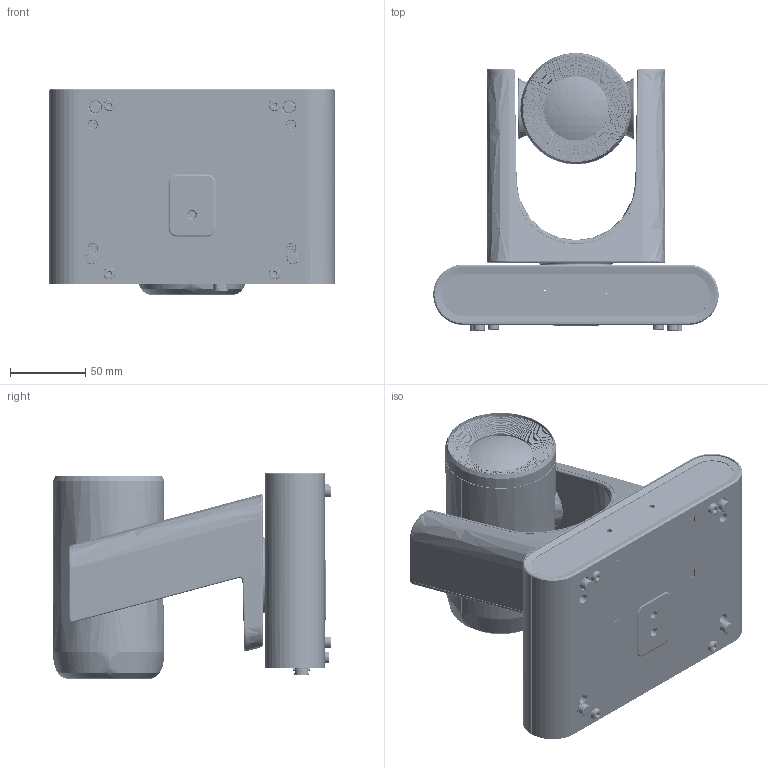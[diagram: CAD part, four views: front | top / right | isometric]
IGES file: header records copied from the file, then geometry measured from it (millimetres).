
Start section: SolidWorks IGES file using analytic representation for surfaces
Global section: file name: D:\00-assy-vc-B50U.IGS; native system: SolidWorks 2020; preprocessor: SolidWorks 2020; author: Barry.Chen; date: 250717.184444; units: millimetre
Bounding box: 190 x 184.9 x 137.6 mm (x, y, z)
Surface area: 511882.6 mm2 (no closed solid volume)
Topology: 0 solids, 0 shells, 12515 faces, 117570 edges, 117367 vertices
Faces by surface type: bspline 7824, revolution 4691
